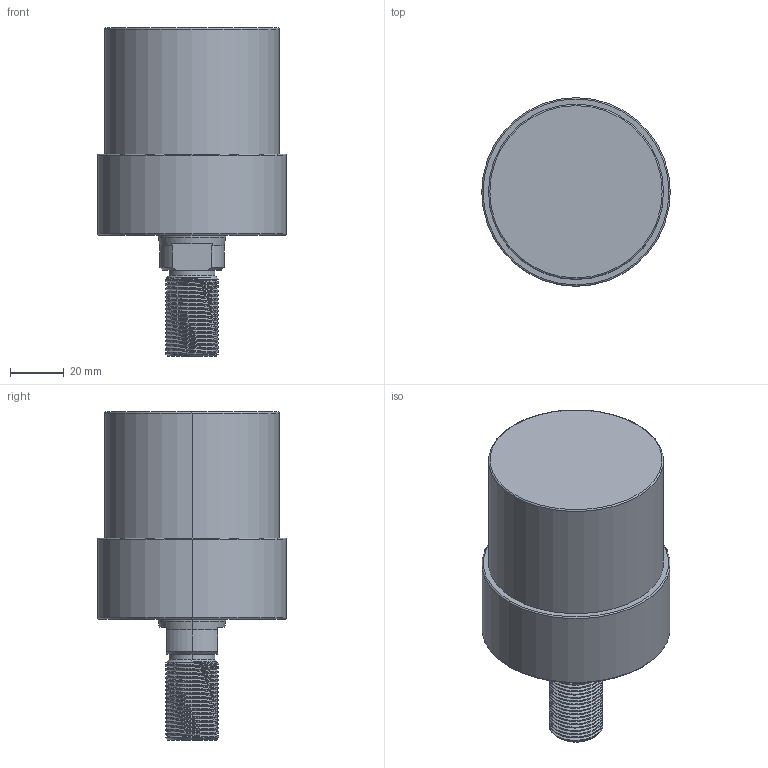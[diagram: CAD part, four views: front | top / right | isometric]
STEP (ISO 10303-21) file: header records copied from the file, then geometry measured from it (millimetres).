
FILE_DESCRIPTION (( 'STEP AP203' ), '1' );
FILE_NAME ('CLLU-065GT-030.STEP', '2020-01-16T01:01:56', ( '' ), ( '' ), 'SwSTEP 2.0', 'SolidWorks 2015', '' );
FILE_SCHEMA (( 'CONFIG_CONTROL_DESIGN' ));
Length unit declared in the file: millimetre
Products named in the file (1): CLLU-065GT-030
Bounding box: 70 x 70 x 122 mm (x, y, z)
Volume: 284436.4 mm3; surface area: 29035.9 mm2
Topology: 1 solids, 1 shells, 107 faces, 270 edges, 166 vertices
Faces by surface type: cylinder 61, cone 26, plane 12, torus 6, bspline 2
Entity records: 5332 total; most frequent: CARTESIAN_POINT 2931, ORIENTED_EDGE 524, DIRECTION 461, EDGE_CURVE 262, AXIS2_PLACEMENT_3D 184, VERTEX_POINT 166, EDGE_LOOP 116, ADVANCED_FACE 107
